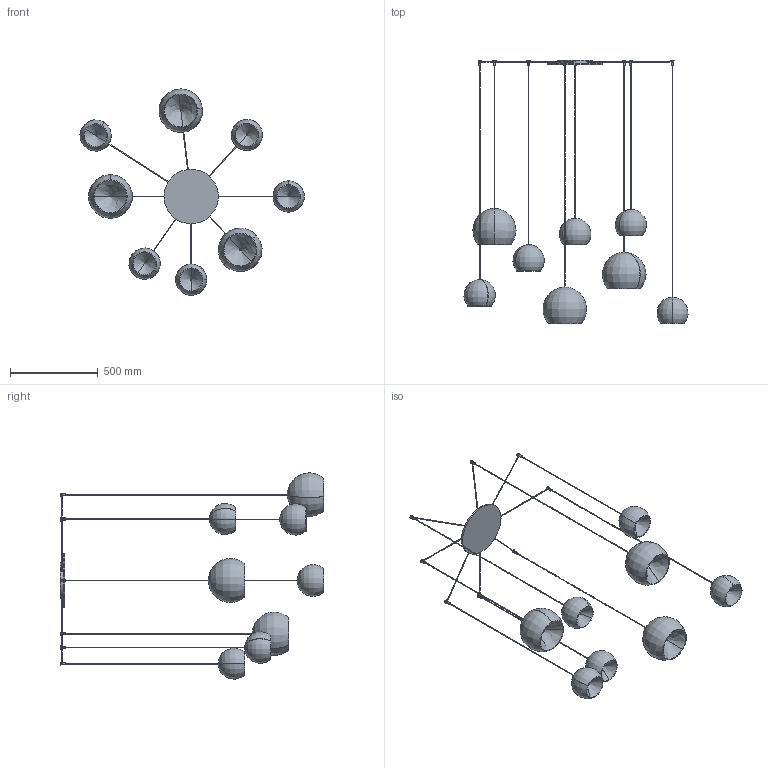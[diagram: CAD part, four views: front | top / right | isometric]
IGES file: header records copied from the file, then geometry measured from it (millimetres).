
Start section: SolidWorks IGES file using analytic representation for surfaces
Global section: file name: Y:\eforma\TECNICO\SOLIDWORKS\E-FORMA\09-LAMPADE\CHERRY MIX\02 parts\CRMA5-00-CHERRY MIX_8 sospensione.IGS; native system: SolidWorks 2022; preprocessor: SolidWorks 2022; author: eforma.tech; date: 250506.094135; units: millimetre
Bounding box: 1276.99 x 1500 x 1176.17 mm (x, y, z)
Volume: 3389065.5 mm3; surface area: 2592378.2 mm2
Topology: 41 solids, 41 shells, 313 faces, 658 edges, 412 vertices
Faces by surface type: revolution 214, plane 99
